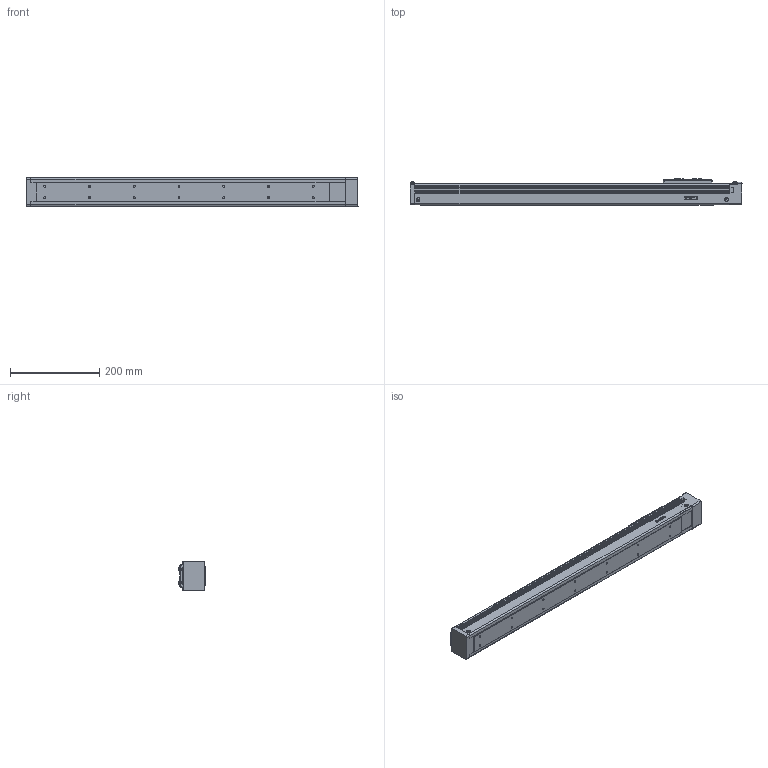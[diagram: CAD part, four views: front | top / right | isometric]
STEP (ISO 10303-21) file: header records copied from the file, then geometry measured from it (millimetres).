
FILE_DESCRIPTION(/* description */ (''),/* implementation_level */ '2;1');
FILE_NAME(/* name */ 'D:\混合母檔20191031\混和母檔\混和母檔\bin\Debug\Download\3D\KE6510C-550AF0\KE6510C-550AF0.stp',/* time_stamp */ '2019-11-04T13:58:08+08:00',/* author */ ('user'),/* organization */ (''),/* preprocessor_version */ 'ST-DEVELOPER v16.13',/* originating_system */ 'Autodesk Inventor 2018',/* authorisation */ '');
FILE_SCHEMA (('AUTOMOTIVE_DESIGN { 1 0 10303 214 3 1 1 }'));
Length unit declared in the file: millimetre
Products named in the file (3): KE6510C-550AF0; KE65-F0-BP; KE65-SL
Assembly tree (2 placements, depth 2):
  KE6510C-550AF0
    KE65-F0-BP
    KE65-SL
Bounding box: 742 x 60 x 64.57 mm (x, y, z)
Volume: 2198773.7 mm3; surface area: 233432.2 mm2
Topology: 2 solids, 17 shells, 1092 faces, 2958 edges, 1938 vertices
Faces by surface type: plane 581, cone 168, cylinder 143, bspline 136, torus 54, sphere 10
Full cylindrical faces by diameter (mm): 2.459 x8, 2.729 x4, 3 x4, 3.242 x8, 3.5 x6, 3.571 x4, 4.134 x14, 4.2 x4, 6 x1, 8 x1, 8.4 x8, 30 x1
Entity records: 39623 total; most frequent: CARTESIAN_POINT 12943, ORIENTED_EDGE 5468, DIRECTION 4946, EDGE_CURVE 2734, VERTEX_POINT 1861, LINE 1652, VECTOR 1652, AXIS2_PLACEMENT_3D 1647
